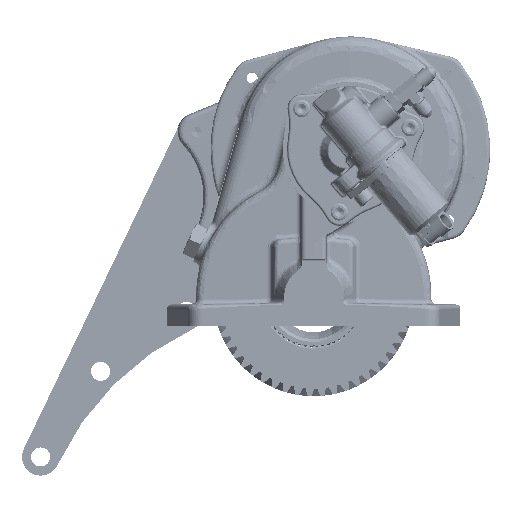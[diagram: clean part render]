
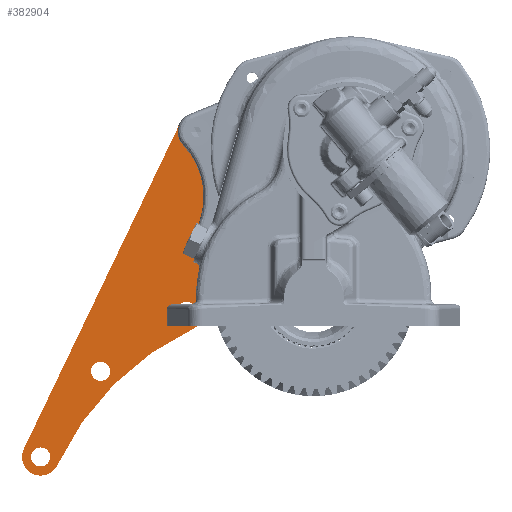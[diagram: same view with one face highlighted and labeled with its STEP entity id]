
A CAD part, left-side view. The second image highlights one B-rep face of the part: STEP entity #382904.
In plain terms, the highlighted planar face has unit normal (-1, 0, 0) as drawn and (0, 0, -1) by its records, which use the part's own axes.
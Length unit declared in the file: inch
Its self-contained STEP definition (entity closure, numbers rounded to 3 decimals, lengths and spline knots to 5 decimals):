
#382585=CARTESIAN_POINT('',(-4.60133,6.44586,0.0));
#382586=VERTEX_POINT('',#382585);
#382587=CARTESIAN_POINT('',(-4.85724,6.44586,0.0));
#382588=DIRECTION('',(0.0,0.0,1.0));
#382589=DIRECTION('',(-1.0,0.0,0.0));
#382590=AXIS2_PLACEMENT_3D('',#382587,#382588,#382589);
#382591=CIRCLE('',#382590,0.25591);
#382592=EDGE_CURVE('',#382586,#382586,#382591,.T.);
#382605=CARTESIAN_POINT('',(-6.51302,4.39585,0.0));
#382606=VERTEX_POINT('',#382605);
#382607=CARTESIAN_POINT('',(-6.76893,4.39585,0.0));
#382608=DIRECTION('',(0.0,0.0,1.0));
#382609=DIRECTION('',(-1.0,0.0,0.0));
#382610=AXIS2_PLACEMENT_3D('',#382607,#382608,#382609);
#382611=CIRCLE('',#382610,0.25591);
#382612=EDGE_CURVE('',#382606,#382606,#382611,.T.);
#382625=CARTESIAN_POINT('',(-7.6083,1.81554,0.0));
#382626=VERTEX_POINT('',#382625);
#382627=CARTESIAN_POINT('',(-7.8642,1.81554,0.0));
#382628=DIRECTION('',(0.0,0.0,1.0));
#382629=DIRECTION('',(-1.0,0.0,0.0));
#382630=AXIS2_PLACEMENT_3D('',#382627,#382628,#382629);
#382631=CIRCLE('',#382630,0.25591);
#382632=EDGE_CURVE('',#382626,#382626,#382631,.T.);
#382645=CARTESIAN_POINT('',(-12.2603,0.54761,0.0));
#382646=VERTEX_POINT('',#382645);
#382647=CARTESIAN_POINT('',(-12.5103,0.54761,0.0));
#382648=DIRECTION('',(0.0,0.0,1.0));
#382649=DIRECTION('',(-1.0,0.0,0.0));
#382650=AXIS2_PLACEMENT_3D('',#382647,#382648,#382649);
#382651=CIRCLE('',#382650,0.25);
#382652=EDGE_CURVE('',#382646,#382646,#382651,.T.);
#382665=CARTESIAN_POINT('',(-9.6353,0.54761,0.0));
#382666=VERTEX_POINT('',#382665);
#382667=CARTESIAN_POINT('',(-9.8853,0.54761,0.0));
#382668=DIRECTION('',(0.0,0.0,1.0));
#382669=DIRECTION('',(-1.0,0.0,0.0));
#382670=AXIS2_PLACEMENT_3D('',#382667,#382668,#382669);
#382671=CIRCLE('',#382670,0.25);
#382672=EDGE_CURVE('',#382666,#382666,#382671,.T.);
#382683=CARTESIAN_POINT('',(-5.16246,6.84189,0.0));
#382684=VERTEX_POINT('',#382683);
#382691=CARTESIAN_POINT('',(-12.81553,0.94364,0.0));
#382692=VERTEX_POINT('',#382691);
#382693=CARTESIAN_POINT('',(-5.16246,6.84189,0.0));
#382694=DIRECTION('',(-0.792,-0.61,0.0));
#382695=VECTOR('',#382694,9.66223);
#382696=LINE('',#382693,#382695);
#382697=EDGE_CURVE('',#382684,#382692,#382696,.T.);
#382714=CARTESIAN_POINT('',(-4.55633,6.04654,0.0));
#382715=VERTEX_POINT('',#382714);
#382722=CARTESIAN_POINT('',(-4.85724,6.44586,0.0));
#382723=DIRECTION('',(0.0,0.0,1.0));
#382724=DIRECTION('',(0.602,-0.799,0.0));
#382725=AXIS2_PLACEMENT_3D('',#382722,#382723,#382724);
#382726=CIRCLE('',#382725,0.5);
#382727=EDGE_CURVE('',#382715,#382684,#382726,.T.);
#382739=CARTESIAN_POINT('',(-7.37702,1.70307,0.0));
#382740=VERTEX_POINT('',#382739);
#382747=CARTESIAN_POINT('',(0.,0.,0.0));
#382748=DIRECTION('',(0.0,0.0,-1.0));
#382749=DIRECTION('',(0.602,-0.799,0.0));
#382750=AXIS2_PLACEMENT_3D('',#382747,#382748,#382749);
#382751=CIRCLE('',#382750,7.57105);
#382752=EDGE_CURVE('',#382740,#382715,#382751,.T.);
#382764=CARTESIAN_POINT('',(-7.59849,1.39199,0.0));
#382765=VERTEX_POINT('',#382764);
#382772=CARTESIAN_POINT('',(-7.8642,1.81554,0.0));
#382773=DIRECTION('',(0.0,0.0,1.0));
#382774=DIRECTION('',(0.531,-0.847,0.0));
#382775=AXIS2_PLACEMENT_3D('',#382772,#382773,#382774);
#382776=CIRCLE('',#382775,0.5);
#382777=EDGE_CURVE('',#382765,#382740,#382776,.T.);
#382789=CARTESIAN_POINT('',(-9.61959,0.12406,0.0));
#382790=VERTEX_POINT('',#382789);
#382797=CARTESIAN_POINT('',(-9.61959,0.12406,0.0));
#382798=DIRECTION('',(0.847,0.531,0.0));
#382799=VECTOR('',#382798,2.38589);
#382800=LINE('',#382797,#382799);
#382801=EDGE_CURVE('',#382790,#382765,#382800,.T.);
#382813=CARTESIAN_POINT('',(-9.8853,0.04761,0.0));
#382814=VERTEX_POINT('',#382813);
#382821=CARTESIAN_POINT('',(-9.8853,0.54761,0.0));
#382822=DIRECTION('',(0.0,0.0,1.0));
#382823=DIRECTION('',(0.0,-1.0,0.0));
#382824=AXIS2_PLACEMENT_3D('',#382821,#382822,#382823);
#382825=CIRCLE('',#382824,0.5);
#382826=EDGE_CURVE('',#382814,#382790,#382825,.T.);
#382838=CARTESIAN_POINT('',(-12.5103,0.04761,0.0));
#382839=VERTEX_POINT('',#382838);
#382846=CARTESIAN_POINT('',(-12.5103,0.04761,0.0));
#382847=DIRECTION('',(1.0,0.0,0.0));
#382848=VECTOR('',#382847,2.625);
#382849=LINE('',#382846,#382848);
#382850=EDGE_CURVE('',#382839,#382814,#382849,.T.);
#382863=CARTESIAN_POINT('',(-12.5103,0.54761,0.0));
#382864=DIRECTION('',(0.0,0.0,1.));
#382865=DIRECTION('',(-0.61,0.792,0.0));
#382866=AXIS2_PLACEMENT_3D('',#382863,#382864,#382865);
#382867=CIRCLE('',#382866,0.5);
#382868=EDGE_CURVE('',#382692,#382839,#382867,.T.);
#382874=CARTESIAN_POINT('',(-8.46331,3.08775,0.0));
#382875=DIRECTION('',(0.0,0.0,1.0));
#382876=DIRECTION('',(1.0,0.0,0.0));
#382877=AXIS2_PLACEMENT_3D('',#382874,#382875,#382876);
#382878=PLANE('',#382877);
#382879=ORIENTED_EDGE('',*,*,#382868,.F.);
#382880=ORIENTED_EDGE('',*,*,#382697,.F.);
#382881=ORIENTED_EDGE('',*,*,#382727,.F.);
#382882=ORIENTED_EDGE('',*,*,#382752,.F.);
#382883=ORIENTED_EDGE('',*,*,#382777,.F.);
#382884=ORIENTED_EDGE('',*,*,#382801,.F.);
#382885=ORIENTED_EDGE('',*,*,#382826,.F.);
#382886=ORIENTED_EDGE('',*,*,#382850,.F.);
#382887=EDGE_LOOP('',(#382879,#382880,#382881,#382882,#382883,#382884,#382885,#382886));
#382888=FACE_OUTER_BOUND('',#382887,.T.);
#382889=ORIENTED_EDGE('',*,*,#382592,.T.);
#382890=EDGE_LOOP('',(#382889));
#382891=FACE_BOUND('',#382890,.T.);
#382892=ORIENTED_EDGE('',*,*,#382612,.T.);
#382893=EDGE_LOOP('',(#382892));
#382894=FACE_BOUND('',#382893,.T.);
#382895=ORIENTED_EDGE('',*,*,#382632,.T.);
#382896=EDGE_LOOP('',(#382895));
#382897=FACE_BOUND('',#382896,.T.);
#382898=ORIENTED_EDGE('',*,*,#382652,.T.);
#382899=EDGE_LOOP('',(#382898));
#382900=FACE_BOUND('',#382899,.T.);
#382901=ORIENTED_EDGE('',*,*,#382672,.T.);
#382902=EDGE_LOOP('',(#382901));
#382903=FACE_BOUND('',#382902,.T.);
#382904=ADVANCED_FACE('',(#382888,#382891,#382894,#382897,#382900,#382903),#382878,.F.);
